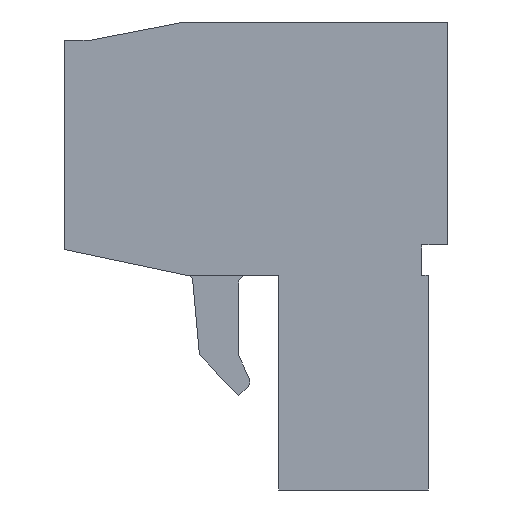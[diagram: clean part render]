
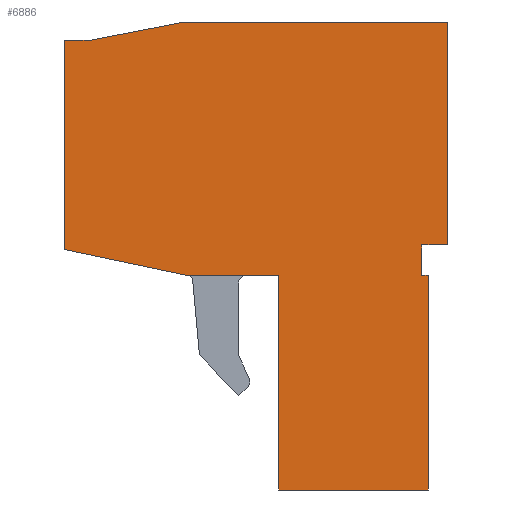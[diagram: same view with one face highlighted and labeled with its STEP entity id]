
A CAD part, left-side view. The second image highlights one B-rep face of the part: STEP entity #6886.
In plain terms, the highlighted planar face has unit normal (-1, 0, 0).
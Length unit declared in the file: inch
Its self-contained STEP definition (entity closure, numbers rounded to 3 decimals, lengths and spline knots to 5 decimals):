
#1=DIRECTION('',(0.,0.,-1.));
#2=VECTOR('',#1,0.343);
#3=CARTESIAN_POINT('',(-1.4765,-0.145,0.215));
#4=LINE('',#3,#2);
#5=DIRECTION('',(0.,1.,0.));
#6=VECTOR('',#5,0.04);
#7=CARTESIAN_POINT('',(-1.4765,-0.145,-0.128));
#8=LINE('',#7,#6);
#9=DIRECTION('',(0.,0.,-1.));
#10=VECTOR('',#9,0.047);
#11=CARTESIAN_POINT('',(-1.4765,-0.105,-0.128));
#12=LINE('',#11,#10);
#13=DIRECTION('',(0.,-1.,0.));
#14=VECTOR('',#13,0.01);
#15=CARTESIAN_POINT('',(-1.4765,-0.105,-0.175));
#16=LINE('',#15,#14);
#17=DIRECTION('',(0.,0.,-1.));
#18=VECTOR('',#17,0.33);
#19=CARTESIAN_POINT('',(-1.4765,-0.115,-0.175));
#20=LINE('',#19,#18);
#21=DIRECTION('',(0.,1.,0.));
#22=VECTOR('',#21,0.23);
#23=CARTESIAN_POINT('',(-1.4765,-0.115,-0.505));
#24=LINE('',#23,#22);
#25=DIRECTION('',(0.,0.,1.));
#26=VECTOR('',#25,0.33);
#27=CARTESIAN_POINT('',(-1.4765,0.115,-0.505));
#28=LINE('',#27,#26);
#29=DIRECTION('',(0.,1.,0.));
#30=VECTOR('',#29,0.14);
#31=CARTESIAN_POINT('',(-1.4765,0.115,-0.175));
#32=LINE('',#31,#30);
#33=DIRECTION('',(0.,0.979,0.206));
#34=VECTOR('',#33,0.19416);
#35=CARTESIAN_POINT('',(-1.4765,0.255,-0.175));
#36=LINE('',#35,#34);
#37=DIRECTION('',(0.,0.,1.));
#38=VECTOR('',#37,0.322);
#39=CARTESIAN_POINT('',(-1.4765,0.445,-0.135));
#40=LINE('',#39,#38);
#41=DIRECTION('',(0.,-1.,0.));
#42=VECTOR('',#41,0.04);
#43=CARTESIAN_POINT('',(-1.4765,0.445,0.187));
#44=LINE('',#43,#42);
#45=DIRECTION('',(0.,-0.982,0.19));
#46=VECTOR('',#45,0.14768);
#47=CARTESIAN_POINT('',(-1.4765,0.405,0.187));
#48=LINE('',#47,#46);
#49=DIRECTION('',(0.,-1.,0.));
#50=VECTOR('',#49,0.405);
#51=CARTESIAN_POINT('',(-1.4765,0.26,0.215));
#52=LINE('',#51,#50);
#5233=CARTESIAN_POINT('',(-1.4765,-0.145,0.215));
#5234=CARTESIAN_POINT('',(-1.4765,-0.145,-0.128));
#5235=VERTEX_POINT('',#5233);
#5236=VERTEX_POINT('',#5234);
#5237=CARTESIAN_POINT('',(-1.4765,-0.105,-0.128));
#5238=VERTEX_POINT('',#5237);
#5239=CARTESIAN_POINT('',(-1.4765,-0.105,-0.175));
#5240=VERTEX_POINT('',#5239);
#5241=CARTESIAN_POINT('',(-1.4765,-0.115,-0.175));
#5242=VERTEX_POINT('',#5241);
#5243=CARTESIAN_POINT('',(-1.4765,-0.115,-0.505));
#5244=VERTEX_POINT('',#5243);
#5245=CARTESIAN_POINT('',(-1.4765,0.115,-0.505));
#5246=VERTEX_POINT('',#5245);
#5247=CARTESIAN_POINT('',(-1.4765,0.115,-0.175));
#5248=VERTEX_POINT('',#5247);
#5249=CARTESIAN_POINT('',(-1.4765,0.255,-0.175));
#5250=VERTEX_POINT('',#5249);
#5251=CARTESIAN_POINT('',(-1.4765,0.445,-0.135));
#5252=CARTESIAN_POINT('',(-1.4765,0.445,0.187));
#5253=VERTEX_POINT('',#5251);
#5254=VERTEX_POINT('',#5252);
#5255=CARTESIAN_POINT('',(-1.4765,0.405,0.187));
#5256=VERTEX_POINT('',#5255);
#5257=CARTESIAN_POINT('',(-1.4765,0.26,0.215));
#5258=VERTEX_POINT('',#5257);
#6853=CARTESIAN_POINT('',(-1.4765,0.,0.));
#6854=DIRECTION('',(1.,0.,0.));
#6855=DIRECTION('',(0.,0.,-1.));
#6856=AXIS2_PLACEMENT_3D('',#6853,#6854,#6855);
#6857=PLANE('',#6856);
#6859=ORIENTED_EDGE('',*,*,#6858,.T.);
#6861=ORIENTED_EDGE('',*,*,#6860,.T.);
#6863=ORIENTED_EDGE('',*,*,#6862,.T.);
#6865=ORIENTED_EDGE('',*,*,#6864,.T.);
#6867=ORIENTED_EDGE('',*,*,#6866,.T.);
#6869=ORIENTED_EDGE('',*,*,#6868,.T.);
#6871=ORIENTED_EDGE('',*,*,#6870,.T.);
#6873=ORIENTED_EDGE('',*,*,#6872,.T.);
#6875=ORIENTED_EDGE('',*,*,#6874,.T.);
#6877=ORIENTED_EDGE('',*,*,#6876,.T.);
#6879=ORIENTED_EDGE('',*,*,#6878,.T.);
#6881=ORIENTED_EDGE('',*,*,#6880,.T.);
#6883=ORIENTED_EDGE('',*,*,#6882,.T.);
#6884=EDGE_LOOP('',(#6859,#6861,#6863,#6865,#6867,#6869,#6871,#6873,#6875,#6877,
#6879,#6881,#6883));
#6885=FACE_OUTER_BOUND('',#6884,.F.);
#6886=ADVANCED_FACE('',(#6885),#6857,.F.);
#6858=EDGE_CURVE('',#5235,#5236,#4,.T.);
#6860=EDGE_CURVE('',#5236,#5238,#8,.T.);
#6862=EDGE_CURVE('',#5238,#5240,#12,.T.);
#6864=EDGE_CURVE('',#5240,#5242,#16,.T.);
#6866=EDGE_CURVE('',#5242,#5244,#20,.T.);
#6868=EDGE_CURVE('',#5244,#5246,#24,.T.);
#6870=EDGE_CURVE('',#5246,#5248,#28,.T.);
#6872=EDGE_CURVE('',#5248,#5250,#32,.T.);
#6874=EDGE_CURVE('',#5250,#5253,#36,.T.);
#6876=EDGE_CURVE('',#5253,#5254,#40,.T.);
#6878=EDGE_CURVE('',#5254,#5256,#44,.T.);
#6880=EDGE_CURVE('',#5256,#5258,#48,.T.);
#6882=EDGE_CURVE('',#5258,#5235,#52,.T.);
